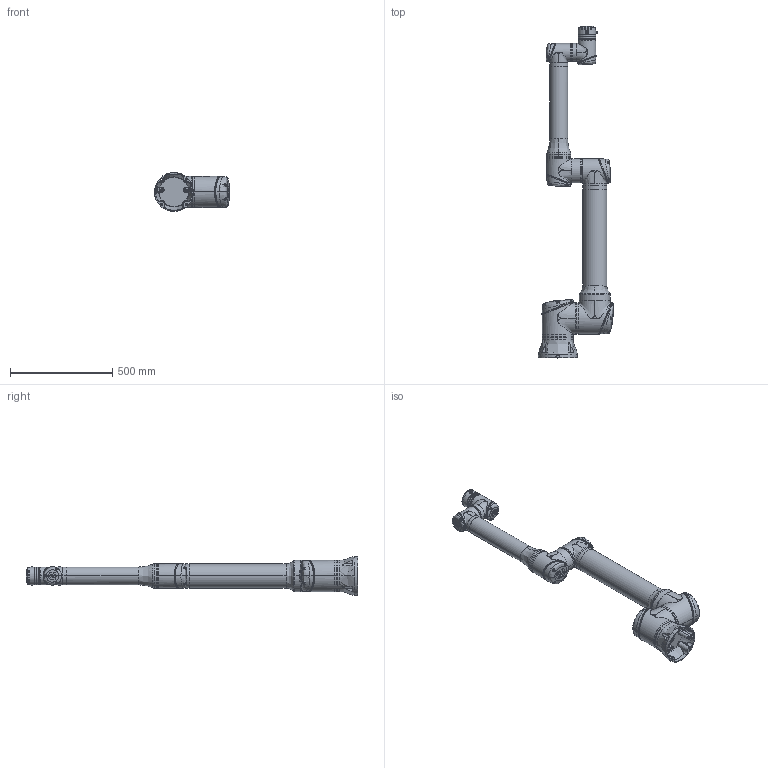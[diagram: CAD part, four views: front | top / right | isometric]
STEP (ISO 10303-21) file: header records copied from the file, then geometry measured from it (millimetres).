
FILE_DESCRIPTION (( 'STEP AP203' ), '1' );
FILE_NAME ('CS_掛极CS612AZ_V1.4.STEP', '2026-07-27T06:45:46', ( '' ), ( '' ), 'SwSTEP 2.0', 'SolidWorks 2020', '' );
FILE_SCHEMA (( 'CONFIG_CONTROL_DESIGN' ));
Length unit declared in the file: millimetre
Products named in the file (8): CS612AZ_Link1; CS_掛极CS612AZ_V1.4; CS612AZ_Base; CS612AZ_Link2; CS612AZ_Link4-2; CS612AZ-Flange; CS612AZ_Link3; CS612AZ-Link5
Assembly tree (7 placements, depth 2):
  CS_掛极CS612AZ_V1.4
    CS612AZ_Base
    CS612AZ_Link1
    CS612AZ_Link2
    CS612AZ_Link3
    CS612AZ_Link4-2
    CS612AZ-Link5
    CS612AZ-Flange
Bounding box: 366.83 x 1621.5 x 189.7 mm (x, y, z)
Volume: 22986327.4 mm3; surface area: 1440002.2 mm2
Topology: 82 solids, 105 shells, 5487 faces, 13162 edges, 7869 vertices
Faces by surface type: bspline 2279, plane 1404, cylinder 1087, cone 408, torus 190, sphere 119
Entity records: 547377 total; most frequent: CARTESIAN_POINT 439262, ORIENTED_EDGE 25722, DIRECTION 17504, EDGE_CURVE 12861, VERTEX_POINT 7846, AXIS2_PLACEMENT_3D 7274, EDGE_LOOP 5839, FACE_OUTER_BOUND 5488
